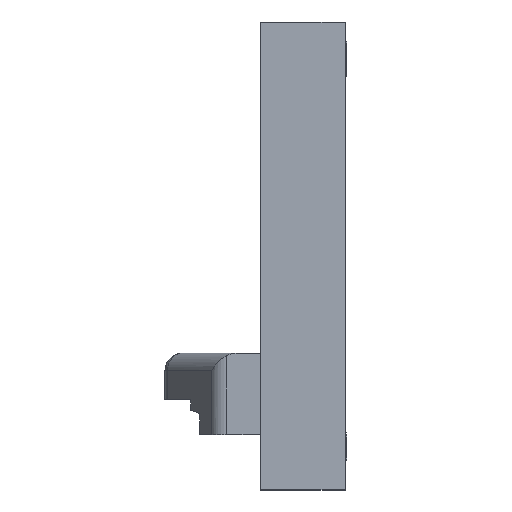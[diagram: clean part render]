
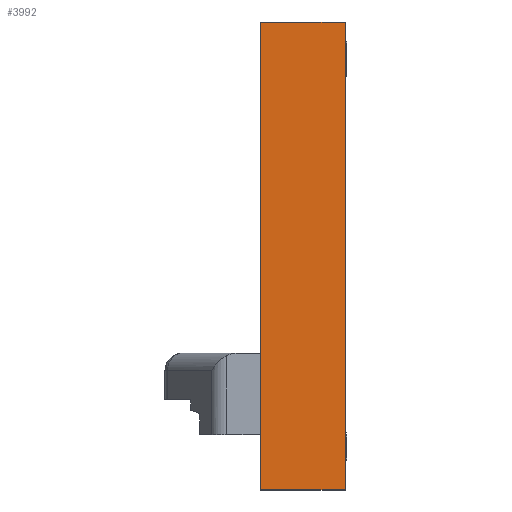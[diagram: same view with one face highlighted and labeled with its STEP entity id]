
A CAD part, left-side view. The second image highlights one B-rep face of the part: STEP entity #3992.
In plain terms, the highlighted planar face has unit normal (-1, 0, 0).
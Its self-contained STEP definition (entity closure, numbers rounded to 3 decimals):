
#55 = CARTESIAN_POINT ( 'NONE',  ( -2.15, 0.01, 2.3 ) ) ;
#62 = PLANE ( 'NONE',  #2450 ) ;
#64 = DIRECTION ( 'NONE',  ( 1., 0., 0. ) ) ;
#65 = DIRECTION ( 'NONE',  ( 0., 0., -1. ) ) ;
#519 = VERTEX_POINT ( 'NONE', #4224 ) ;
#581 = VERTEX_POINT ( 'NONE', #4363 ) ;
#608 = VERTEX_POINT ( 'NONE', #4358 ) ;
#858 = VERTEX_POINT ( 'NONE', #4390 ) ;
#866 = EDGE_LOOP ( 'NONE', ( #3801, #3556, #3649, #3544 ) ) ;
#1069 = CARTESIAN_POINT ( 'NONE',  ( -2.15, 0.005, 2.6 ) ) ;
#1070 = DIRECTION ( 'NONE',  ( 0., 0., -1. ) ) ;
#1106 = CARTESIAN_POINT ( 'NONE',  ( -2.15, 0.495, -0.1 ) ) ;
#1107 = DIRECTION ( 'NONE',  ( 0., 0., 1. ) ) ;
#1537 = FACE_OUTER_BOUND ( 'NONE', #866, .T. ) ;
#1815 = LINE ( 'NONE', #1069, #1818 ) ;
#1818 = VECTOR ( 'NONE', #1070, 1000. ) ;
#1846 = LINE ( 'NONE', #1106, #1849 ) ;
#1849 = VECTOR ( 'NONE', #1107, 1000. ) ;
#2243 = LINE ( 'NONE', #4685, #2246 ) ;
#2246 = VECTOR ( 'NONE', #4686, 1000. ) ;
#2257 = LINE ( 'NONE', #4714, #2266 ) ;
#2266 = VECTOR ( 'NONE', #4719, 1000. ) ;
#2450 = AXIS2_PLACEMENT_3D ( 'NONE', #55, #64, #65 ) ;
#2537 = EDGE_CURVE ( 'NONE', #608, #519, #1815, .T. ) ;
#2554 = EDGE_CURVE ( 'NONE', #858, #581, #1846, .T. ) ;
#3396 = EDGE_CURVE ( 'NONE', #581, #608, #2243, .T. ) ;
#3409 = EDGE_CURVE ( 'NONE', #858, #519, #2257, .T. ) ;
#3544 = ORIENTED_EDGE ( 'NONE', *, *, #3396, .F. ) ;
#3556 = ORIENTED_EDGE ( 'NONE', *, *, #3409, .T. ) ;
#3649 = ORIENTED_EDGE ( 'NONE', *, *, #2537, .F. ) ;
#3801 = ORIENTED_EDGE ( 'NONE', *, *, #2554, .F. ) ;
#3992 = ADVANCED_FACE ( 'NONE', ( #1537 ), #62, .F. ) ;
#4224 = CARTESIAN_POINT ( 'NONE',  ( -2.15, 0.005, -0.1 ) ) ;
#4358 = CARTESIAN_POINT ( 'NONE',  ( -2.15, 0.005, 2.6 ) ) ;
#4363 = CARTESIAN_POINT ( 'NONE',  ( -2.15, 0.495, 2.6 ) ) ;
#4390 = CARTESIAN_POINT ( 'NONE',  ( -2.15, 0.495, -0.1 ) ) ;
#4685 = CARTESIAN_POINT ( 'NONE',  ( -2.15, 0.5, 2.6 ) ) ;
#4686 = DIRECTION ( 'NONE',  ( 0., -1., 0. ) ) ;
#4714 = CARTESIAN_POINT ( 'NONE',  ( -2.15, 0.5, -0.1 ) ) ;
#4719 = DIRECTION ( 'NONE',  ( 0., -1., 0. ) ) ;
